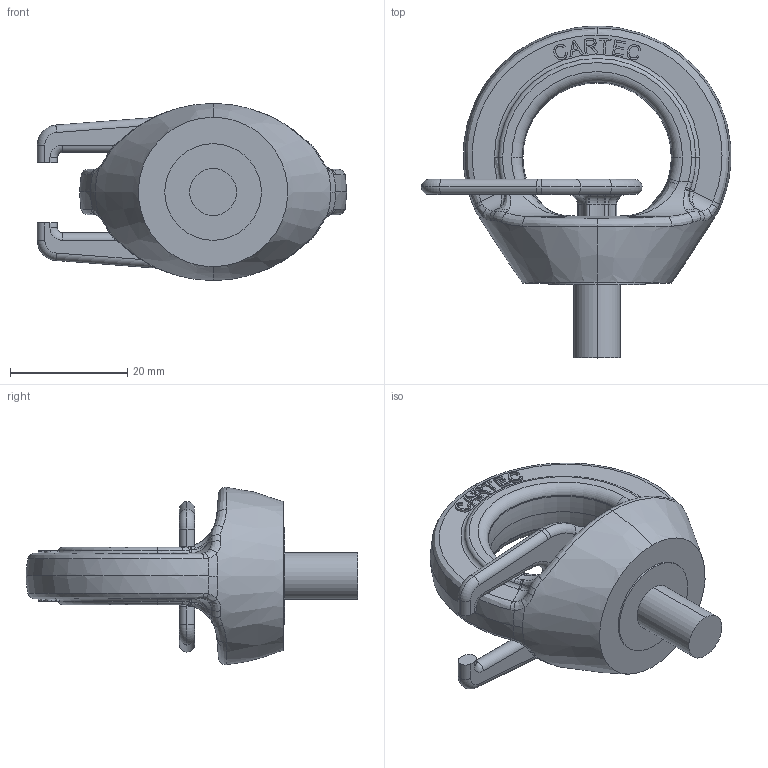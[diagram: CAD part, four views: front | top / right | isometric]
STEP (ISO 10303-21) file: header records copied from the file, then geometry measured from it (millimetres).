
FILE_DESCRIPTION(('STEP AP214'),'1');
FILE_NAME('c807ht08.stp','2017-03-27T13:19:35',('TraceParts'),('TraceParts S.A.'),'Spatial InterOp 3D',' ',' ');
FILE_SCHEMA(('automotive_design'));
Length unit declared in the file: millimetre
Products named in the file (3): c807ht08_1; c807ht08_2; c807ht08_3
Bounding box: 52.81 x 56.68 x 30.27 mm (x, y, z)
Volume: 16755.3 mm3; surface area: 8424.1 mm2
Topology: 3 solids, 3 shells, 415 faces, 1066 edges, 665 vertices
Faces by surface type: bspline 146, plane 128, torus 68, cylinder 67, cone 6
Entity records: 24450 total; most frequent: CARTESIAN_POINT 11623, ORIENTED_EDGE 2112, DIRECTION 1808, EDGE_CURVE 1056, AXIS2_PLACEMENT_3D 694, VERTEX_POINT 665, EDGE_LOOP 437, LINE 420
